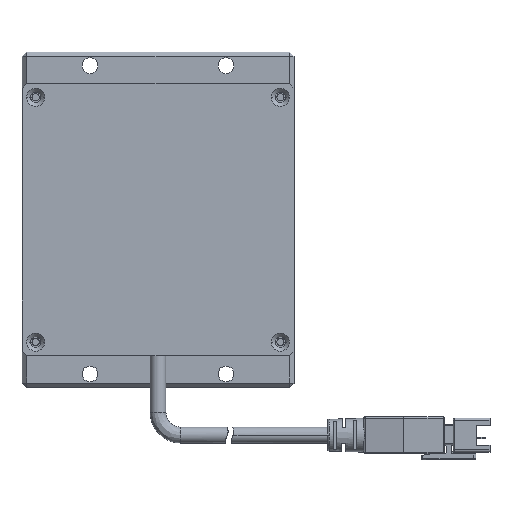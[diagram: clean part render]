
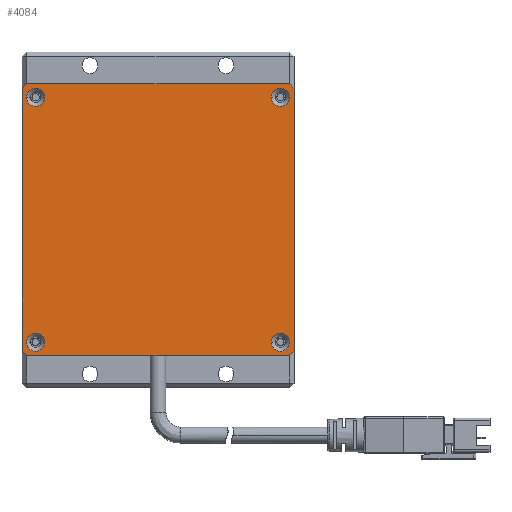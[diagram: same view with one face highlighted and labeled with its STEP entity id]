
A CAD part, top view. The second image highlights one B-rep face of the part: STEP entity #4084.
In plain terms, the highlighted planar face has unit normal (0, 0, 1).
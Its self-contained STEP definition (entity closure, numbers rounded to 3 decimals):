
#25 = ORIENTED_EDGE ( 'NONE', *, *, #3542, .T. ) ;
#209 = PLANE ( 'NONE',  #1968 ) ;
#259 = VECTOR ( 'NONE', #4209, 1000. ) ;
#297 = DIRECTION ( 'NONE',  ( 0., 0., 1. ) ) ;
#366 = VERTEX_POINT ( 'NONE', #7012 ) ;
#378 = EDGE_LOOP ( 'NONE', ( #3354, #7590 ) ) ;
#455 = LINE ( 'NONE', #6715, #7620 ) ;
#631 = DIRECTION ( 'NONE',  ( 0.707, -0.707, 0. ) ) ;
#660 = CIRCLE ( 'NONE', #5523, 2. ) ;
#704 = ORIENTED_EDGE ( 'NONE', *, *, #6565, .F. ) ;
#707 = ORIENTED_EDGE ( 'NONE', *, *, #2431, .F. ) ;
#715 = FACE_BOUND ( 'NONE', #4757, .T. ) ;
#762 = LINE ( 'NONE', #3502, #5397 ) ;
#766 = CARTESIAN_POINT ( 'NONE',  ( -30., -30., 20. ) ) ;
#842 = VECTOR ( 'NONE', #3698, 1000. ) ;
#938 = FACE_BOUND ( 'NONE', #378, .T. ) ;
#958 = ORIENTED_EDGE ( 'NONE', *, *, #5438, .T. ) ;
#1008 = CARTESIAN_POINT ( 'NONE',  ( 30., -29., 20. ) ) ;
#1128 = CIRCLE ( 'NONE', #6018, 2. ) ;
#1346 = DIRECTION ( 'NONE',  ( 0., 0., 1. ) ) ;
#1415 = VERTEX_POINT ( 'NONE', #6189 ) ;
#1443 = VECTOR ( 'NONE', #2928, 1000. ) ;
#1445 = DIRECTION ( 'NONE',  ( 1., 0., 0. ) ) ;
#1505 = CIRCLE ( 'NONE', #7595, 2. ) ;
#1702 = DIRECTION ( 'NONE',  ( 0., 0., 1. ) ) ;
#1703 = VERTEX_POINT ( 'NONE', #2642 ) ;
#1801 = VERTEX_POINT ( 'NONE', #3829 ) ;
#1968 = AXIS2_PLACEMENT_3D ( 'NONE', #7916, #5840, #5755 ) ;
#1985 = ORIENTED_EDGE ( 'NONE', *, *, #5845, .T. ) ;
#2004 = DIRECTION ( 'NONE',  ( -1., 0., 0. ) ) ;
#2031 = LINE ( 'NONE', #2066, #7542 ) ;
#2066 = CARTESIAN_POINT ( 'NONE',  ( -30., 30., 20. ) ) ;
#2103 = VERTEX_POINT ( 'NONE', #7011 ) ;
#2117 = DIRECTION ( 'NONE',  ( 0., 0., 1. ) ) ;
#2135 = AXIS2_PLACEMENT_3D ( 'NONE', #8319, #2117, #1445 ) ;
#2285 = DIRECTION ( 'NONE',  ( 1., 0., 0. ) ) ;
#2422 = DIRECTION ( 'NONE',  ( 1., 0., 0. ) ) ;
#2428 = VERTEX_POINT ( 'NONE', #3945 ) ;
#2431 = EDGE_CURVE ( 'NONE', #1415, #2830, #7234, .T. ) ;
#2574 = CARTESIAN_POINT ( 'NONE',  ( 29., -27., 20. ) ) ;
#2642 = CARTESIAN_POINT ( 'NONE',  ( -30., -29., 20. ) ) ;
#2652 = ORIENTED_EDGE ( 'NONE', *, *, #3169, .F. ) ;
#2790 = VERTEX_POINT ( 'NONE', #2574 ) ;
#2830 = VERTEX_POINT ( 'NONE', #6705 ) ;
#2928 = DIRECTION ( 'NONE',  ( -0.707, -0.707, 0. ) ) ;
#3169 = EDGE_CURVE ( 'NONE', #2790, #366, #1505, .T. ) ;
#3354 = ORIENTED_EDGE ( 'NONE', *, *, #7892, .F. ) ;
#3494 = LINE ( 'NONE', #6120, #6625 ) ;
#3502 = CARTESIAN_POINT ( 'NONE',  ( -29., -30., 20. ) ) ;
#3542 = EDGE_CURVE ( 'NONE', #8597, #4316, #7985, .T. ) ;
#3603 = AXIS2_PLACEMENT_3D ( 'NONE', #5180, #1702, #3767 ) ;
#3628 = LINE ( 'NONE', #766, #5994 ) ;
#3660 = CARTESIAN_POINT ( 'NONE',  ( 29., -30., 20. ) ) ;
#3698 = DIRECTION ( 'NONE',  ( 0.707, 0.707, 0. ) ) ;
#3767 = DIRECTION ( 'NONE',  ( 1., 0., 0. ) ) ;
#3829 = CARTESIAN_POINT ( 'NONE',  ( -30., 29., 20. ) ) ;
#3850 = FACE_OUTER_BOUND ( 'NONE', #8282, .T. ) ;
#3945 = CARTESIAN_POINT ( 'NONE',  ( 30., 29., 20. ) ) ;
#3962 = DIRECTION ( 'NONE',  ( 0., -1., 0. ) ) ;
#4050 = AXIS2_PLACEMENT_3D ( 'NONE', #4220, #1346, #8966 ) ;
#4084 = ADVANCED_FACE ( 'NONE', ( #938, #715, #8086, #7769, #3850 ), #209, .F. ) ;
#4119 = EDGE_CURVE ( 'NONE', #2103, #5543, #2031, .T. ) ;
#4187 = VERTEX_POINT ( 'NONE', #8612 ) ;
#4192 = DIRECTION ( 'NONE',  ( 1., 0., 0. ) ) ;
#4209 = DIRECTION ( 'NONE',  ( 0., 1., 0. ) ) ;
#4220 = CARTESIAN_POINT ( 'NONE',  ( -27., 27., 20. ) ) ;
#4273 = EDGE_CURVE ( 'NONE', #7443, #5945, #4836, .T. ) ;
#4316 = VERTEX_POINT ( 'NONE', #5367 ) ;
#4467 = CARTESIAN_POINT ( 'NONE',  ( 27., 27., 20. ) ) ;
#4597 = DIRECTION ( 'NONE',  ( -0.707, 0.707, 0. ) ) ;
#4628 = EDGE_CURVE ( 'NONE', #2830, #1415, #6644, .T. ) ;
#4757 = EDGE_LOOP ( 'NONE', ( #2652, #7652 ) ) ;
#4836 = CIRCLE ( 'NONE', #3603, 2. ) ;
#4944 = EDGE_CURVE ( 'NONE', #5036, #8597, #3628, .T. ) ;
#4996 = CARTESIAN_POINT ( 'NONE',  ( 25., 27., 20. ) ) ;
#5016 = ORIENTED_EDGE ( 'NONE', *, *, #6421, .T. ) ;
#5036 = VERTEX_POINT ( 'NONE', #5039 ) ;
#5039 = CARTESIAN_POINT ( 'NONE',  ( -29., -30., 20. ) ) ;
#5075 = EDGE_LOOP ( 'NONE', ( #8077, #707 ) ) ;
#5180 = CARTESIAN_POINT ( 'NONE',  ( -27., -27., 20. ) ) ;
#5244 = EDGE_CURVE ( 'NONE', #4187, #5689, #1128, .T. ) ;
#5367 = CARTESIAN_POINT ( 'NONE',  ( 30., -29., 20. ) ) ;
#5397 = VECTOR ( 'NONE', #631, 1000. ) ;
#5419 = DIRECTION ( 'NONE',  ( 1., 0., 0. ) ) ;
#5438 = EDGE_CURVE ( 'NONE', #1801, #1703, #3494, .T. ) ;
#5502 = EDGE_CURVE ( 'NONE', #4316, #2428, #7397, .T. ) ;
#5523 = AXIS2_PLACEMENT_3D ( 'NONE', #8494, #5715, #2285 ) ;
#5543 = VERTEX_POINT ( 'NONE', #8303 ) ;
#5635 = CIRCLE ( 'NONE', #7631, 2. ) ;
#5689 = VERTEX_POINT ( 'NONE', #4996 ) ;
#5715 = DIRECTION ( 'NONE',  ( 0., 0., 1. ) ) ;
#5755 = DIRECTION ( 'NONE',  ( -1., 0., 0. ) ) ;
#5824 = CARTESIAN_POINT ( 'NONE',  ( 27., 27., 20. ) ) ;
#5840 = DIRECTION ( 'NONE',  ( 0., 0., -1. ) ) ;
#5845 = EDGE_CURVE ( 'NONE', #2428, #2103, #455, .T. ) ;
#5945 = VERTEX_POINT ( 'NONE', #7341 ) ;
#5994 = VECTOR ( 'NONE', #4192, 1000. ) ;
#6018 = AXIS2_PLACEMENT_3D ( 'NONE', #4467, #6534, #2422 ) ;
#6120 = CARTESIAN_POINT ( 'NONE',  ( -30., -30., 20. ) ) ;
#6189 = CARTESIAN_POINT ( 'NONE',  ( -29., 27., 20. ) ) ;
#6218 = CARTESIAN_POINT ( 'NONE',  ( 30., -30., 20. ) ) ;
#6421 = EDGE_CURVE ( 'NONE', #5543, #1801, #8812, .T. ) ;
#6534 = DIRECTION ( 'NONE',  ( 0., 0., 1. ) ) ;
#6564 = CARTESIAN_POINT ( 'NONE',  ( 27., -27., 20. ) ) ;
#6565 = EDGE_CURVE ( 'NONE', #5689, #4187, #5635, .T. ) ;
#6600 = DIRECTION ( 'NONE',  ( 0., 0., 1. ) ) ;
#6625 = VECTOR ( 'NONE', #3962, 1000. ) ;
#6644 = CIRCLE ( 'NONE', #8598, 2. ) ;
#6705 = CARTESIAN_POINT ( 'NONE',  ( -25., 27., 20. ) ) ;
#6715 = CARTESIAN_POINT ( 'NONE',  ( 29., 30., 20. ) ) ;
#7011 = CARTESIAN_POINT ( 'NONE',  ( 29., 30., 20. ) ) ;
#7012 = CARTESIAN_POINT ( 'NONE',  ( 25., -27., 20. ) ) ;
#7034 = CARTESIAN_POINT ( 'NONE',  ( -27., 27., 20. ) ) ;
#7234 = CIRCLE ( 'NONE', #4050, 2. ) ;
#7250 = ORIENTED_EDGE ( 'NONE', *, *, #4119, .T. ) ;
#7276 = DIRECTION ( 'NONE',  ( 0., 0., 1. ) ) ;
#7280 = DIRECTION ( 'NONE',  ( 1., 0., 0. ) ) ;
#7341 = CARTESIAN_POINT ( 'NONE',  ( -25., -27., 20. ) ) ;
#7397 = LINE ( 'NONE', #6218, #259 ) ;
#7443 = VERTEX_POINT ( 'NONE', #7499 ) ;
#7499 = CARTESIAN_POINT ( 'NONE',  ( -29., -27., 20. ) ) ;
#7541 = ORIENTED_EDGE ( 'NONE', *, *, #4944, .T. ) ;
#7542 = VECTOR ( 'NONE', #2004, 1000. ) ;
#7590 = ORIENTED_EDGE ( 'NONE', *, *, #4273, .F. ) ;
#7595 = AXIS2_PLACEMENT_3D ( 'NONE', #6564, #7276, #5419 ) ;
#7597 = ORIENTED_EDGE ( 'NONE', *, *, #5244, .F. ) ;
#7608 = EDGE_CURVE ( 'NONE', #366, #2790, #660, .T. ) ;
#7620 = VECTOR ( 'NONE', #4597, 1000. ) ;
#7631 = AXIS2_PLACEMENT_3D ( 'NONE', #5824, #6600, #7280 ) ;
#7652 = ORIENTED_EDGE ( 'NONE', *, *, #7608, .F. ) ;
#7769 = FACE_BOUND ( 'NONE', #5075, .T. ) ;
#7808 = ORIENTED_EDGE ( 'NONE', *, *, #8477, .T. ) ;
#7872 = CARTESIAN_POINT ( 'NONE',  ( -30., 29., 20. ) ) ;
#7892 = EDGE_CURVE ( 'NONE', #5945, #7443, #8916, .T. ) ;
#7916 = CARTESIAN_POINT ( 'NONE',  ( 0., 0., 20. ) ) ;
#7954 = DIRECTION ( 'NONE',  ( 1., 0., 0. ) ) ;
#7985 = LINE ( 'NONE', #1008, #842 ) ;
#8077 = ORIENTED_EDGE ( 'NONE', *, *, #4628, .F. ) ;
#8086 = FACE_BOUND ( 'NONE', #8292, .T. ) ;
#8282 = EDGE_LOOP ( 'NONE', ( #958, #7808, #7541, #25, #8497, #1985, #7250, #5016 ) ) ;
#8292 = EDGE_LOOP ( 'NONE', ( #7597, #704 ) ) ;
#8303 = CARTESIAN_POINT ( 'NONE',  ( -29., 30., 20. ) ) ;
#8319 = CARTESIAN_POINT ( 'NONE',  ( -27., -27., 20. ) ) ;
#8477 = EDGE_CURVE ( 'NONE', #1703, #5036, #762, .T. ) ;
#8494 = CARTESIAN_POINT ( 'NONE',  ( 27., -27., 20. ) ) ;
#8497 = ORIENTED_EDGE ( 'NONE', *, *, #5502, .T. ) ;
#8597 = VERTEX_POINT ( 'NONE', #3660 ) ;
#8598 = AXIS2_PLACEMENT_3D ( 'NONE', #7034, #297, #7954 ) ;
#8612 = CARTESIAN_POINT ( 'NONE',  ( 29., 27., 20. ) ) ;
#8812 = LINE ( 'NONE', #7872, #1443 ) ;
#8916 = CIRCLE ( 'NONE', #2135, 2. ) ;
#8966 = DIRECTION ( 'NONE',  ( 1., 0., 0. ) ) ;
